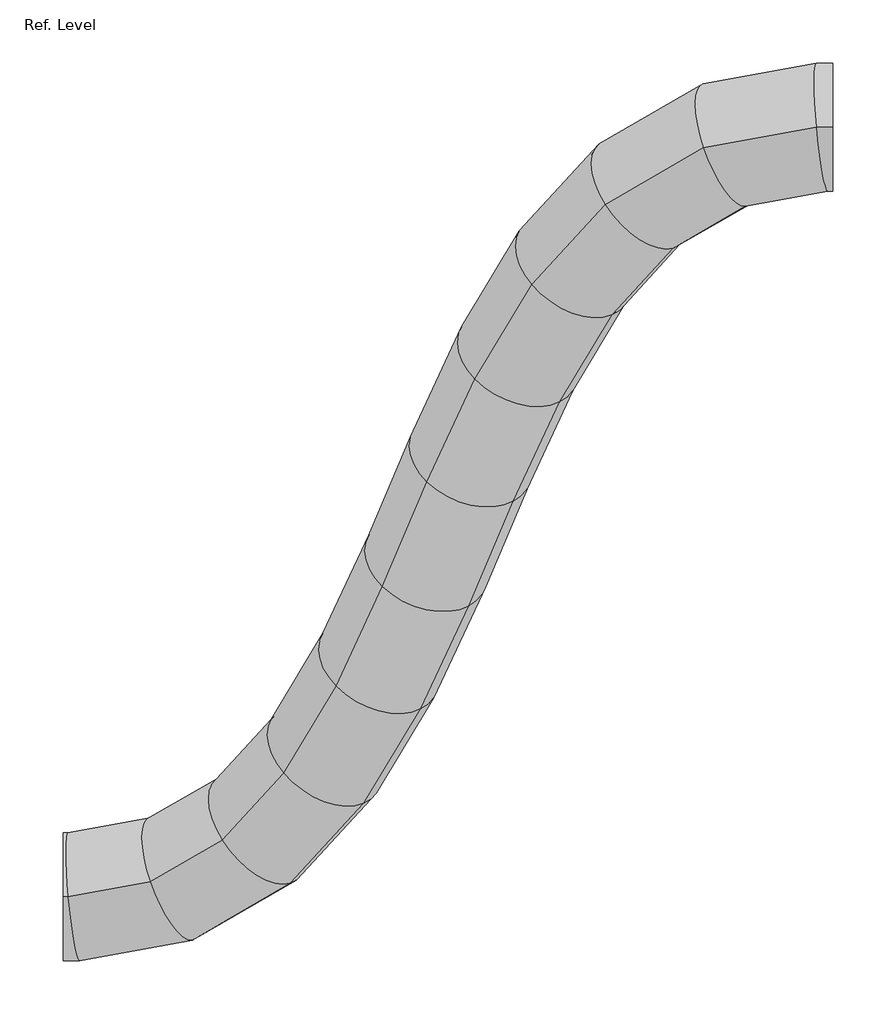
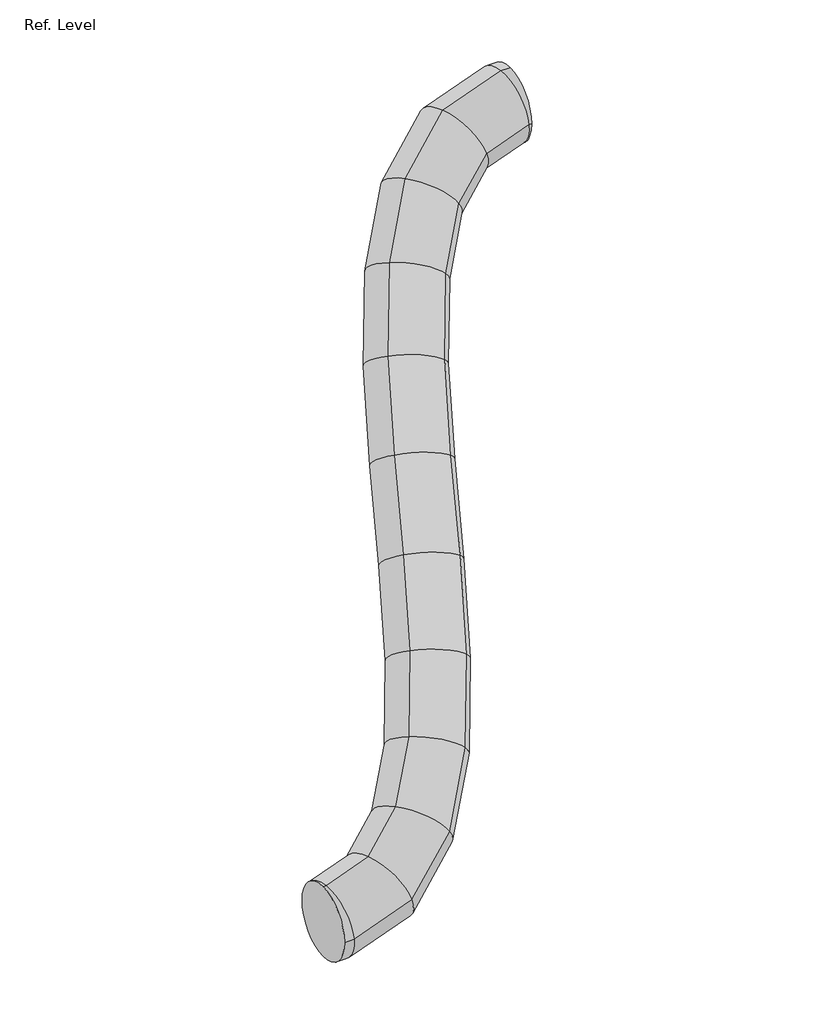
# One storey: 1 duct segment.
"""IFC4 building model written with IfcOpenShell, lengths in millimetres."""

from ifc_helpers import new_model, si_unit, frame, origin, place, context, project, spatial, circle_curve, ellipse_curve, element, save
from ifc_brep_helpers import plane_surface, cylinder_surface, advanced_brep

model = new_model("IFC4")

# Units and contexts
model_context = context("Model", 3, world=origin())
ifc_project = project(units=[si_unit("LENGTHUNIT", "METRE", prefix="MILLI")], contexts=[model_context])

# Site, building, storey
site = spatial("IfcSite", under=ifc_project)
building = spatial("IfcBuilding", under=site)
storey = spatial("IfcBuildingStorey", under=building, Name="Ref. Level", Elevation=0.0)

# Duct segment
placement = place(None, origin())
element("IfcDuctSegment", 1, ObjectType="Flex_Duct-In-O-Vate-DryerFlex", at=placement, inside=storey, context=model_context, shape_type="AdvancedBrep", body=[
    advanced_brep(
    [(-1410.7504355, 1638.6687628, -304.8), (-1410.7504355, 1587.8687628, -355.6), (-1410.7504355, 1537.0687628, -304.8), (-1410.7504355, 1587.8687628, -254.0), (-1406.9270377, 1638.6687628, -304.8), (-1397.7359729, 1587.8687628, -355.6), (-1397.7359729, 1537.0687628, -304.8), (-1406.9270377, 1587.8687628, -254.0), (-801.1504355, 2248.2687628, 304.8), (-801.1504355, 2197.4687628, 355.6), (-801.1504355, 2146.6687628, 304.8), (-801.1504355, 2197.4687628, 254.0), (-1341.7823385, 1650.6512837, -292.8174791), (-1308.5248481, 1604.27799, -339.1907729), (-1308.5248481, 1553.47799, -288.3907729), (-1341.7823385, 1599.8512837, -242.0174791), (-1284.7187139, 1683.5594379, -259.909325), (-1230.5951421, 1649.219453, -294.2493098), (-1230.5951421, 1598.419453, -243.4493098), (-1284.7187139, 1632.7594379, -209.109325), (-1236.0611229, 1736.5369804, -206.9317824), (-1172.4186992, 1712.5609567, -230.9078061), (-1172.4186992, 1661.7609567, -180.1078061), (-1236.0611229, 1685.7369804, -156.1317824), (-1194.5235406, 1805.4183862, -138.0503767), (-1127.2404875, 1787.479586, -155.9891768), (-1127.2404875, 1736.679586, -105.1891768), (-1194.5235406, 1754.6183862, -87.2503767), (-1157.825675, 1884.2300846, -59.2386782), (-1089.2997422, 1868.9604714, -74.5082915), (-1089.2997422, 1818.1604714, -23.7082915), (-1157.825675, 1833.4300846, -8.4386782), (-1122.5249834, 1967.1267853, 23.6580225), (-1053.9977129, 1951.8603134, 8.3915506), (-1053.9977129, 1901.0603134, 59.1915506), (-1122.5249834, 1916.3267853, 74.4580225), (-1084.5982764, 2048.6129447, 105.1441818), (-1017.3108622, 2030.682621, 87.2138581), (-1017.3108622, 1979.882621, 138.0138581), (-1084.5982764, 1997.8129447, 155.9441818), (-1039.4417443, 2123.5424775, 180.0737147), (-975.7908348, 2099.5779968, 156.109234), (-975.7908348, 2048.7779968, 206.909234), (-1039.4417443, 2072.7424775, 230.8737147), (-981.2887134, 2186.8979578, 243.429195), (-927.1519025, 2152.5682344, 209.0994716), (-927.1519025, 2101.7682344, 259.8994716), (-981.2887134, 2136.0979578, 294.229195), (-903.3753763, 2231.8534385, 288.3846756), (-870.1054709, 2185.4836484, 242.0148856), (-870.1054709, 2134.6836484, 292.8148856), (-903.3753763, 2181.0534385, 339.1846756), (-814.170084, 2248.2687628, 304.8), (-804.9751323, 2197.4687628, 254.0), (-804.9751323, 2146.6687628, 304.8), (-814.170084, 2197.4687628, 355.6)],
    [
        (0, 1, circle_curve(frame((-1410.7504355, 1587.8687628, -304.8), z_axis=(-1.0, 0.0, 0.0), x_axis=(0.0, 1.0, 0.0)), 50.8)),
        (1, 2, circle_curve(frame((-1410.7504355, 1587.8687628, -304.8), z_axis=(-1.0, 0.0, 0.0), x_axis=(0.0, 1.0, 0.0)), 50.8)),
        (2, 3, circle_curve(frame((-1410.7504355, 1587.8687628, -304.8), z_axis=(-1.0, 0.0, 0.0), x_axis=(0.0, 1.0, 0.0)), 50.8)),
        (3, 0, circle_curve(frame((-1410.7504355, 1587.8687628, -304.8), z_axis=(-1.0, 0.0, 0.0), x_axis=(0.0, 1.0, 0.0)), 50.8)),
        (0, 4),
        (4, 5, ellipse_curve(frame((-1402.3315053, 1587.8687628, -304.8), z_axis=(-0.9919155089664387, -0.08973188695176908, -0.08973188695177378), x_axis=(-0.12690005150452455, 0.701390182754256, 0.7013901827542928)), 51.2140394, 50.8)),
        (5, 1),
        (5, 6, ellipse_curve(frame((-1402.3315053, 1587.8687628, -304.8), z_axis=(-0.9919155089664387, -0.08973188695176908, -0.08973188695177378), x_axis=(-0.12690005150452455, 0.701390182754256, 0.7013901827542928)), 51.2140394, 50.8)),
        (6, 2),
        (6, 7, ellipse_curve(frame((-1402.3315053, 1587.8687628, -304.8), z_axis=(-0.9919155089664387, -0.08973188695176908, -0.08973188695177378), x_axis=(-0.12690005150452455, 0.701390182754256, 0.7013901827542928)), 51.2140394, 50.8)),
        (7, 3),
        (7, 4, ellipse_curve(frame((-1402.3315053, 1587.8687628, -304.8), z_axis=(-0.9919155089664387, -0.08973188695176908, -0.08973188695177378), x_axis=(-0.12690005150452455, 0.701390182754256, 0.7013901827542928)), 51.2140394, 50.8)),
        (8, 9, circle_curve(frame((-801.1504355, 2197.4687628, 304.8), z_axis=(1.0, 0.0, 0.0), x_axis=(0.0, 1.0, 0.0)), 50.8)),
        (9, 10, circle_curve(frame((-801.1504355, 2197.4687628, 304.8), z_axis=(1.0, 0.0, 0.0), x_axis=(0.0, 1.0, 0.0)), 50.8)),
        (10, 11, circle_curve(frame((-801.1504355, 2197.4687628, 304.8), z_axis=(1.0, 0.0, 0.0), x_axis=(0.0, 1.0, 0.0)), 50.8)),
        (11, 8, circle_curve(frame((-801.1504355, 2197.4687628, 304.8), z_axis=(1.0, 0.0, 0.0), x_axis=(0.0, 1.0, 0.0)), 50.8)),
        (4, 12),
        (12, 13, ellipse_curve(frame((-1325.1535933, 1602.0646368, -290.604126), z_axis=(-0.8918744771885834, -0.3198123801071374, -0.31981238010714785), x_axis=(-0.45228300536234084, 0.6306504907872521, 0.630650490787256)), 51.9953143, 50.8)),
        (13, 5),
        (13, 14, ellipse_curve(frame((-1325.1535933, 1602.0646368, -290.604126), z_axis=(-0.8918744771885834, -0.3198123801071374, -0.31981238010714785), x_axis=(-0.45228300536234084, 0.6306504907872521, 0.630650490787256)), 51.9953143, 50.8)),
        (14, 6),
        (14, 15, ellipse_curve(frame((-1325.1535933, 1602.0646368, -290.604126), z_axis=(-0.8918744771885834, -0.3198123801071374, -0.31981238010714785), x_axis=(-0.45228300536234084, 0.6306504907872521, 0.630650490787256)), 51.9953143, 50.8)),
        (15, 7),
        (15, 12, ellipse_curve(frame((-1325.1535933, 1602.0646368, -290.604126), z_axis=(-0.8918744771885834, -0.3198123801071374, -0.31981238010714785), x_axis=(-0.45228300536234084, 0.6306504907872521, 0.630650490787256)), 51.9953143, 50.8)),
        (12, 16),
        (16, 17, ellipse_curve(frame((-1257.656928, 1640.9894454, -251.6793174), z_axis=(-0.6678460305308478, -0.5262991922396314, -0.5262991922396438), x_axis=(-0.7442994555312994, 0.47223845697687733, 0.4722384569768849)), 51.4190147, 50.8)),
        (17, 13),
        (17, 18, ellipse_curve(frame((-1257.656928, 1640.9894454, -251.6793174), z_axis=(-0.6678460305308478, -0.5262991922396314, -0.5262991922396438), x_axis=(-0.7442994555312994, 0.47223845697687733, 0.4722384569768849)), 51.4190147, 50.8)),
        (18, 14),
        (18, 19, ellipse_curve(frame((-1257.656928, 1640.9894454, -251.6793174), z_axis=(-0.6678460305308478, -0.5262991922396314, -0.5262991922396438), x_axis=(-0.7442994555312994, 0.47223845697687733, 0.4722384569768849)), 51.4190147, 50.8)),
        (19, 15),
        (19, 16, ellipse_curve(frame((-1257.656928, 1640.9894454, -251.6793174), z_axis=(-0.6678460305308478, -0.5262991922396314, -0.5262991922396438), x_axis=(-0.7442994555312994, 0.47223845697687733, 0.4722384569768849)), 51.4190147, 50.8)),
        (16, 20),
        (20, 21, ellipse_curve(frame((-1204.239911, 1699.1489686, -193.5197943), z_axis=(-0.47020591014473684, -0.6240618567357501, -0.6240618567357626), x_axis=(-0.8825567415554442, 0.3324857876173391, 0.33248578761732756)), 50.9904772, 50.8)),
        (21, 17),
        (21, 22, ellipse_curve(frame((-1204.239911, 1699.1489686, -193.5197943), z_axis=(-0.47020591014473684, -0.6240618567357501, -0.6240618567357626), x_axis=(-0.8825567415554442, 0.3324857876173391, 0.33248578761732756)), 50.9904772, 50.8)),
        (22, 18),
        (22, 23, ellipse_curve(frame((-1204.239911, 1699.1489686, -193.5197943), z_axis=(-0.47020591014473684, -0.6240618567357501, -0.6240618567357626), x_axis=(-0.8825567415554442, 0.3324857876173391, 0.33248578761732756)), 50.9904772, 50.8)),
        (23, 19),
        (23, 20, ellipse_curve(frame((-1204.239911, 1699.1489686, -193.5197943), z_axis=(-0.47020591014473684, -0.6240618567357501, -0.6240618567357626), x_axis=(-0.8825567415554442, 0.3324857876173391, 0.33248578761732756)), 50.9904772, 50.8)),
        (20, 24),
        (24, 25, ellipse_curve(frame((-1160.8820141, 1771.0489861, -121.6197767), z_axis=(-0.35280723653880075, -0.6616370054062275, -0.6616370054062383), x_axis=(-0.9356960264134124, 0.2494723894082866, 0.2494723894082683)), 50.8458963, 50.8)),
        (25, 21),
        (25, 26, ellipse_curve(frame((-1160.8820141, 1771.0489861, -121.6197767), z_axis=(-0.35280723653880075, -0.6616370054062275, -0.6616370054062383), x_axis=(-0.9356960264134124, 0.2494723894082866, 0.2494723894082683)), 50.8458963, 50.8)),
        (26, 22),
        (26, 27, ellipse_curve(frame((-1160.8820141, 1771.0489861, -121.6197767), z_axis=(-0.35280723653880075, -0.6616370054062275, -0.6616370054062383), x_axis=(-0.9356960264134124, 0.2494723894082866, 0.2494723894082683)), 50.8458963, 50.8)),
        (27, 23),
        (27, 24, ellipse_curve(frame((-1160.8820141, 1771.0489861, -121.6197767), z_axis=(-0.35280723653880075, -0.6616370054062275, -0.6616370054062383), x_axis=(-0.9356960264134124, 0.2494723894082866, 0.2494723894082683)), 50.8458963, 50.8)),
        (24, 28),
        (28, 29, ellipse_curve(frame((-1123.5627086, 1851.195278, -41.4734848), z_axis=(-0.3005583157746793, -0.6744125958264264, -0.6744125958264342), x_axis=(-0.9537634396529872, 0.21252682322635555, 0.21252682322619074)), 50.8041615, 50.8)),
        (29, 25),
        (29, 30, ellipse_curve(frame((-1123.5627086, 1851.195278, -41.4734848), z_axis=(-0.3005583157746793, -0.6744125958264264, -0.6744125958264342), x_axis=(-0.9537634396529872, 0.21252682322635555, 0.21252682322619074)), 50.8041615, 50.8)),
        (30, 26),
        (30, 31, ellipse_curve(frame((-1123.5627086, 1851.195278, -41.4734848), z_axis=(-0.3005583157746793, -0.6744125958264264, -0.6744125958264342), x_axis=(-0.9537634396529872, 0.21252682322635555, 0.21252682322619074)), 50.8041615, 50.8)),
        (31, 27),
        (31, 28, ellipse_curve(frame((-1123.5627086, 1851.195278, -41.4734848), z_axis=(-0.3005583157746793, -0.6744125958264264, -0.6744125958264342), x_axis=(-0.9537634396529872, 0.21252682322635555, 0.21252682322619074)), 50.8041615, 50.8)),
        (28, 32),
        (32, 33, ellipse_curve(frame((-1088.2613481, 1934.0935494, 41.4247865), z_axis=(-0.30049673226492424, -0.674426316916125, -0.6744263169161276), x_axis=(0.9537828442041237, -0.2124832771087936, -0.21248327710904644)), 50.8041196, 50.8)),
        (33, 29),
        (33, 34, ellipse_curve(frame((-1088.2613481, 1934.0935494, 41.4247865), z_axis=(-0.30049673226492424, -0.674426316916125, -0.6744263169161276), x_axis=(0.9537828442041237, -0.2124832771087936, -0.21248327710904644)), 50.8041196, 50.8)),
        (34, 30),
        (34, 35, ellipse_curve(frame((-1088.2613481, 1934.0935494, 41.4247865), z_axis=(-0.30049673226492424, -0.674426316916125, -0.6744263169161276), x_axis=(0.9537828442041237, -0.2124832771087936, -0.21248327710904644)), 50.8041196, 50.8)),
        (35, 31),
        (35, 32, ellipse_curve(frame((-1088.2613481, 1934.0935494, 41.4247865), z_axis=(-0.30049673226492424, -0.674426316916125, -0.6744263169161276), x_axis=(0.9537828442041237, -0.2124832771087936, -0.21248327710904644)), 50.8041196, 50.8)),
        (32, 36),
        (36, 37, ellipse_curve(frame((-1050.9545693, 2014.2477828, 121.57902), z_axis=(-0.3526412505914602, -0.6616812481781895, -0.6616812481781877), x_axis=(0.9357585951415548, -0.2493550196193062, -0.24935501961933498)), 50.845792, 50.8)),
        (37, 33),
        (37, 38, ellipse_curve(frame((-1050.9545693, 2014.2477828, 121.57902), z_axis=(-0.3526412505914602, -0.6616812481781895, -0.6616812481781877), x_axis=(0.9357585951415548, -0.2493550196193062, -0.24935501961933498)), 50.845792, 50.8)),
        (38, 34),
        (38, 39, ellipse_curve(frame((-1050.9545693, 2014.2477828, 121.57902), z_axis=(-0.3526412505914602, -0.6616812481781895, -0.6616812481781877), x_axis=(0.9357585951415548, -0.2493550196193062, -0.24935501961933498)), 50.845792, 50.8)),
        (39, 35),
        (39, 36, ellipse_curve(frame((-1050.9545693, 2014.2477828, 121.57902), z_axis=(-0.3526412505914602, -0.6616812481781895, -0.6616812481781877), x_axis=(0.9357585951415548, -0.2493550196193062, -0.24935501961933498)), 50.845792, 50.8)),
        (36, 40),
        (40, 41, ellipse_curve(frame((-1007.6162895, 2086.1602372, 193.4914743), z_axis=(-0.4699807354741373, -0.6241466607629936, -0.6241466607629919), x_axis=(0.8826766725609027, -0.33232656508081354, -0.33232656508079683)), 50.9903469, 50.8)),
        (41, 37),
        (41, 42, ellipse_curve(frame((-1007.6162895, 2086.1602372, 193.4914743), z_axis=(-0.4699807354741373, -0.6241466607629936, -0.6241466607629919), x_axis=(0.8826766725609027, -0.33232656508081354, -0.33232656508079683)), 50.9903469, 50.8)),
        (42, 38),
        (42, 43, ellipse_curve(frame((-1007.6162895, 2086.1602372, 193.4914743), z_axis=(-0.4699807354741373, -0.6241466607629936, -0.6241466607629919), x_axis=(0.8826766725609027, -0.33232656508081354, -0.33232656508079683)), 50.9903469, 50.8)),
        (43, 39),
        (43, 40, ellipse_curve(frame((-1007.6162895, 2086.1602372, 193.4914743), z_axis=(-0.4699807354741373, -0.6241466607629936, -0.6241466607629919), x_axis=(0.8826766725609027, -0.33232656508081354, -0.33232656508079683)), 50.9903469, 50.8)),
        (40, 44),
        (44, 45, ellipse_curve(frame((-954.2203079, 2144.3330961, 251.6643333), z_axis=(-0.6676449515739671, -0.526426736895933, -0.5264267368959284), x_axis=(0.7444798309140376, -0.4720962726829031, -0.4720962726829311)), 51.4191313, 50.8)),
        (45, 41),
        (45, 46, ellipse_curve(frame((-954.2203079, 2144.3330961, 251.6643333), z_axis=(-0.6676449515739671, -0.526426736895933, -0.5264267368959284), x_axis=(0.7444798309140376, -0.4720962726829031, -0.4720962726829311)), 51.4191313, 50.8)),
        (46, 42),
        (46, 47, ellipse_curve(frame((-954.2203079, 2144.3330961, 251.6643333), z_axis=(-0.6676449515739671, -0.526426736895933, -0.5264267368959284), x_axis=(0.7444798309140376, -0.4720962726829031, -0.4720962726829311)), 51.4191313, 50.8)),
        (47, 43),
        (47, 44, ellipse_curve(frame((-954.2203079, 2144.3330961, 251.6643333), z_axis=(-0.6676449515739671, -0.526426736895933, -0.5264267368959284), x_axis=(0.7444798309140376, -0.4720962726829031, -0.4720962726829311)), 51.4191313, 50.8)),
        (44, 48),
        (48, 49, ellipse_curve(frame((-886.7404236, 2183.2685435, 290.5997806), z_axis=(-0.8917925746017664, -0.3199265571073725, -0.31992655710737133), x_axis=(0.45244447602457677, -0.630592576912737, -0.6305925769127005)), 51.9961607, 50.8)),
        (49, 45),
        (49, 50, ellipse_curve(frame((-886.7404236, 2183.2685435, 290.5997806), z_axis=(-0.8917925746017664, -0.3199265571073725, -0.31992655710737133), x_axis=(0.45244447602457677, -0.630592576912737, -0.6305925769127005)), 51.9961607, 50.8)),
        (50, 46),
        (50, 51, ellipse_curve(frame((-886.7404236, 2183.2685435, 290.5997806), z_axis=(-0.8917925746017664, -0.3199265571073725, -0.31992655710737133), x_axis=(0.45244447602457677, -0.630592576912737, -0.6305925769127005)), 51.9961607, 50.8)),
        (51, 47),
        (51, 48, ellipse_curve(frame((-886.7404236, 2183.2685435, 290.5997806), z_axis=(-0.8917925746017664, -0.3199265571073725, -0.31992655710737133), x_axis=(0.45244447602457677, -0.630592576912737, -0.6305925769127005)), 51.9961607, 50.8)),
        (48, 52),
        (52, 53, ellipse_curve(frame((-809.5726081, 2197.4687628, 304.8), z_axis=(-0.9919087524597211, -0.08976922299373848, -0.08976922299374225), x_axis=(0.12695285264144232, -0.7013854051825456, -0.7013854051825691)), 51.2143883, 50.8)),
        (53, 49),
        (53, 54, ellipse_curve(frame((-809.5726081, 2197.4687628, 304.8), z_axis=(-0.9919087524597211, -0.08976922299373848, -0.08976922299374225), x_axis=(0.12695285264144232, -0.7013854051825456, -0.7013854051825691)), 51.2143883, 50.8)),
        (54, 50),
        (54, 55, ellipse_curve(frame((-809.5726081, 2197.4687628, 304.8), z_axis=(-0.9919087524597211, -0.08976922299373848, -0.08976922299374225), x_axis=(0.12695285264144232, -0.7013854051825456, -0.7013854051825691)), 51.2143883, 50.8)),
        (55, 51),
        (55, 52, ellipse_curve(frame((-809.5726081, 2197.4687628, 304.8), z_axis=(-0.9919087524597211, -0.08976922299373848, -0.08976922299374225), x_axis=(0.12695285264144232, -0.7013854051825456, -0.7013854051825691)), 51.2143883, 50.8)),
        (52, 8),
        (11, 53),
        (10, 54),
        (9, 55),
    ],
    [
        plane_surface(frame((-1410.7504355, 1587.8687628, -355.6), z_axis=(-1.0, 0.0, 0.0), x_axis=(0.0, 1.0, 0.0))),
        cylinder_surface(frame((-1410.7504355, 1587.8687628, -304.8), z_axis=(-1.0, 0.0, 0.0), x_axis=(0.0, 1.0, 0.0)), 50.8),
        plane_surface(frame((-801.1504355, 2197.4687628, 254.0), z_axis=(1.0, 0.0, 0.0), x_axis=(0.0, 1.0, 0.0))),
        cylinder_surface(frame((-1402.3315053, 1587.8687628, -304.8), z_axis=(-0.9677927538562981, -0.17801290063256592, -0.17801290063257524), x_axis=(-0.1780129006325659, 0.9838963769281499, -0.016103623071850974)), 50.8),
        cylinder_surface(frame((-1325.1535933, 1602.0646368, -290.604126), z_axis=(-0.7749498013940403, -0.44690759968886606, -0.4469075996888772), x_axis=(-0.4469075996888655, 0.8874749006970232, -0.11252509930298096)), 50.8),
        cylinder_surface(frame((-1257.656928, 1640.9894454, -251.6793174), z_axis=(-0.5446623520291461, -0.5930189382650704, -0.5930189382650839), x_axis=(-0.5930189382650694, 0.7723311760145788, -0.22766882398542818)), 50.8),
        cylinder_surface(frame((-1204.239911, 1699.1489686, -193.5197943), z_axis=(-0.39223651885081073, -0.6504423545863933, -0.6504423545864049), x_axis=(-0.6504423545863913, 0.6961182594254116, -0.30388174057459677)), 50.8),
        cylinder_surface(frame((-1160.8820141, 1771.0489861, -121.6197767), z_axis=(-0.31274102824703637, -0.6716371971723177, -0.6716371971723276), x_axis=(-0.671637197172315, 0.6563705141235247, -0.3436294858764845)), 50.8),
        cylinder_surface(frame((-1123.5627086, 1851.195278, -41.4734848), z_axis=(-0.2883263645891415, -0.6770775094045, -0.6770775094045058), x_axis=(-0.6770775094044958, 0.644163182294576, -0.35583681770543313)), 50.8),
        cylinder_surface(frame((-1088.2613481, 1934.0935494, 41.4247865), z_axis=(-0.31261836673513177, -0.6716657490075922, -0.6716657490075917), x_axis=(-0.6716657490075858, 0.6563091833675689, -0.3436908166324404)), 50.8),
        cylinder_surface(frame((-1050.9545693, 2014.2477828, 121.57902), z_axis=(-0.3920289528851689, -0.6505049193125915, -0.6505049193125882), x_axis=(-0.6505049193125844, 0.6960144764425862, -0.30398552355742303)), 50.8),
        cylinder_surface(frame((-1007.6162895, 2086.1602372, 193.4914743), z_axis=(-0.5444236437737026, -0.593128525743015, -0.5931285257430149), x_axis=(-0.5931285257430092, 0.7722118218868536, -0.2277881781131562)), 50.8),
        cylinder_surface(frame((-954.2203079, 2144.3330961, 251.6643333), z_axis=(-0.7747882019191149, -0.4470476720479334, -0.44704767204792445), x_axis=(-0.44704767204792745, 0.8873941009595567, -0.11260589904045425)), 50.8),
        cylinder_surface(frame((-886.7404236, 2183.2685435, 290.5997806), z_axis=(-0.9677659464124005, -0.17808575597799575, -0.1780857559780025), x_axis=(-0.17808575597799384, 0.9838829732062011, -0.01611702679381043)), 50.8),
        cylinder_surface(frame((-809.5726081, 2197.4687628, 304.8), z_axis=(-1.0, 0.0, 0.0), x_axis=(0.0, 1.0, 0.0)), 50.8),
    ],
    [
        (0, [[1, 2, 3, 4]]),
        (1, [[-1, 5, 6, 7]]),
        (1, [[-2, -7, 8, 9]]),
        (1, [[-3, -9, 10, 11]]),
        (1, [[-4, -11, 12, -5]]),
        (2, [[13, 14, 15, 16]]),
        (3, [[-6, 17, 18, 19]]),
        (3, [[-8, -19, 20, 21]]),
        (3, [[-10, -21, 22, 23]]),
        (3, [[-12, -23, 24, -17]]),
        (4, [[-18, 25, 26, 27]]),
        (4, [[-20, -27, 28, 29]]),
        (4, [[-22, -29, 30, 31]]),
        (4, [[-24, -31, 32, -25]]),
        (5, [[-26, 33, 34, 35]]),
        (5, [[-28, -35, 36, 37]]),
        (5, [[-30, -37, 38, 39]]),
        (5, [[-32, -39, 40, -33]]),
        (6, [[-34, 41, 42, 43]]),
        (6, [[-36, -43, 44, 45]]),
        (6, [[-38, -45, 46, 47]]),
        (6, [[-40, -47, 48, -41]]),
        (7, [[-42, 49, 50, 51]]),
        (7, [[-44, -51, 52, 53]]),
        (7, [[-46, -53, 54, 55]]),
        (7, [[-48, -55, 56, -49]]),
        (8, [[-50, 57, 58, 59]]),
        (8, [[-52, -59, 60, 61]]),
        (8, [[-54, -61, 62, 63]]),
        (8, [[-56, -63, 64, -57]]),
        (9, [[-58, 65, 66, 67]]),
        (9, [[-60, -67, 68, 69]]),
        (9, [[-62, -69, 70, 71]]),
        (9, [[-64, -71, 72, -65]]),
        (10, [[-66, 73, 74, 75]]),
        (10, [[-68, -75, 76, 77]]),
        (10, [[-70, -77, 78, 79]]),
        (10, [[-72, -79, 80, -73]]),
        (11, [[-74, 81, 82, 83]]),
        (11, [[-76, -83, 84, 85]]),
        (11, [[-78, -85, 86, 87]]),
        (11, [[-80, -87, 88, -81]]),
        (12, [[-82, 89, 90, 91]]),
        (12, [[-84, -91, 92, 93]]),
        (12, [[-86, -93, 94, 95]]),
        (12, [[-88, -95, 96, -89]]),
        (13, [[-90, 97, 98, 99]]),
        (13, [[-92, -99, 100, 101]]),
        (13, [[-94, -101, 102, 103]]),
        (13, [[-96, -103, 104, -97]]),
        (14, [[-98, 105, -16, 106]]),
        (14, [[-100, -106, -15, 107]]),
        (14, [[-102, -107, -14, 108]]),
        (14, [[-104, -108, -13, -105]]),
    ],
),
])

save(model, "model.ifc")
